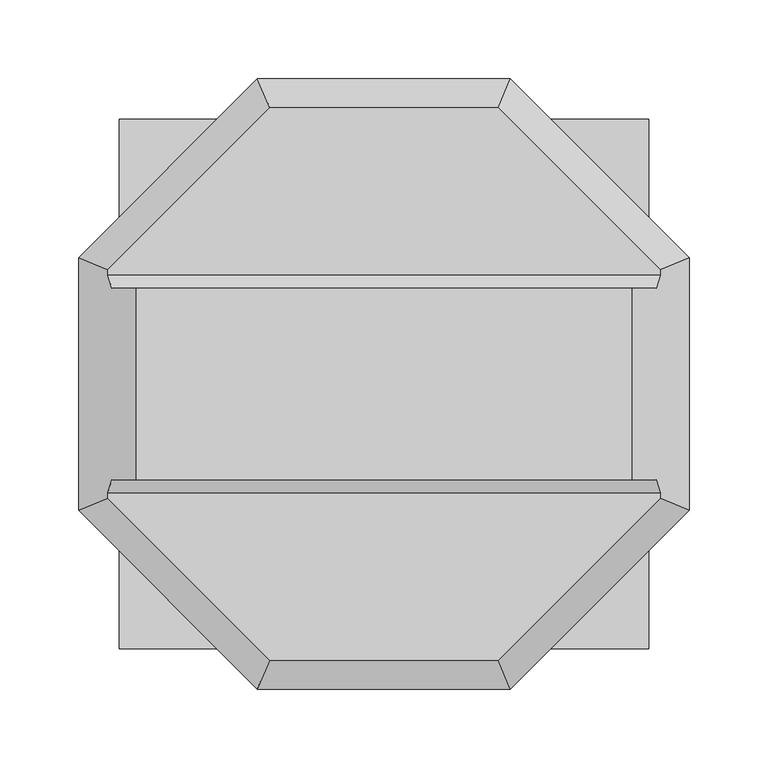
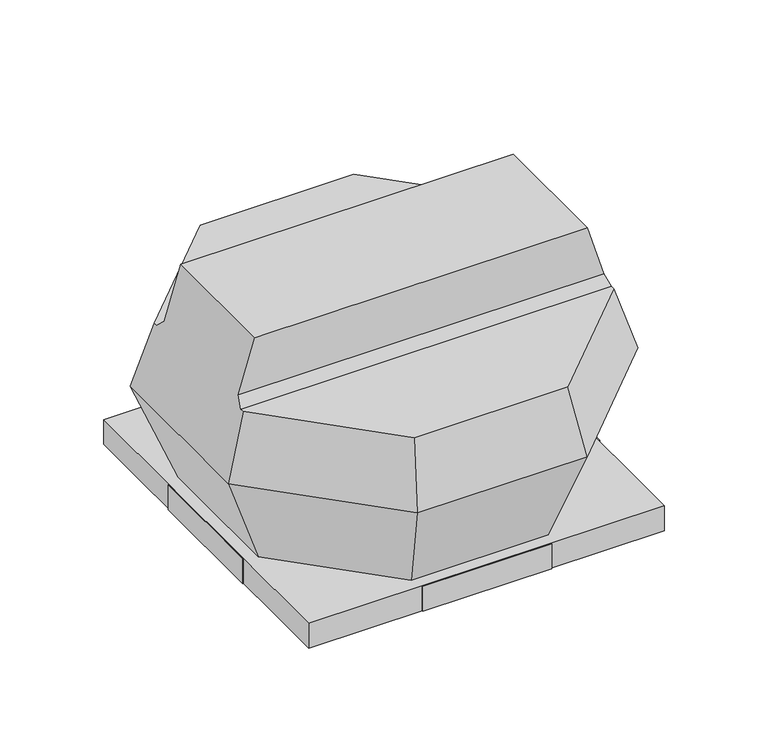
"""IFC4 building model written with IfcOpenShell, lengths in millimetres: unitary equipment geometry, VE-Wentylator-ParaForma-Harmann-VIVER_PT-Wywiewny : 2-250/1200PT."""

from ifc_helpers import new_model, si_unit, origin, place, context, project, spatial, faceted_brep, source, transform, mapped, element, save


def unitary_equipment_c4368d7e(model_context):
    return source(origin(), model_context, "Body", "Brep", [
        faceted_brep([(157.6194424, -60.8, 218.0), (157.6194424, 60.8, 218.0), (-157.6194424, 60.8, 218.0), (-157.6194424, -60.8, 218.0), (173.241842, 60.8, 166.4), (-173.241842, 60.8, 166.4), (-173.241842, -60.8, 166.4), (173.241842, -60.8, 166.4), (175.7547473, 69.15, 158.1), (-175.7547473, 69.15, 158.1), (175.7547473, -69.15, 158.1), (-175.7547473, -69.15, 158.1), (72.8, -175.7547473, 158.1), (175.7547473, -72.8, 158.1), (-175.7547473, -72.8, 158.1), (-72.8, -175.7547473, 158.1), (175.7547473, 72.8, 158.1), (72.8, 175.7547473, 158.1), (-72.8, 175.7547473, 158.1), (-175.7547473, 72.8, 158.1), (80.5, -194.3441918, 96.7), (194.3441918, -80.5, 96.7), (194.3441918, 80.5, 96.7), (80.5, 194.3441918, 96.7), (-80.5, 194.3441918, 96.7), (-194.3441918, 80.5, 96.7), (-194.3441918, -80.5, 96.7), (-80.5, -194.3441918, 96.7), (65.05, -157.0445922, 1.0), (-65.05, -157.0445922, 1.0), (-157.0445922, -65.05, 1.0), (-157.0445922, 65.05, 1.0), (-65.05, 157.0445922, 1.0), (65.05, 157.0445922, 1.0), (157.0445922, 65.05, 1.0), (157.0445922, -65.05, 1.0)], [[[0, 1, 2, 3]], [[2, 1, 4, 5]], [[0, 3, 6, 7]], [[4, 8, 9, 5]], [[10, 7, 6, 11]], [[12, 13, 10, 11, 14, 15]], [[16, 17, 18, 19, 9, 8]], [[13, 12, 20, 21]], [[13, 21, 22, 16, 8, 4, 1, 0, 7, 10]], [[17, 16, 22, 23]], [[18, 17, 23, 24]], [[19, 18, 24, 25]], [[19, 25, 26, 14, 11, 6, 3, 2, 5, 9]], [[15, 14, 26, 27]], [[12, 15, 27, 20]], [[28, 29, 30, 31, 32, 33, 34, 35]], [[28, 35, 21, 20]], [[35, 34, 22, 21]], [[34, 33, 23, 22]], [[33, 32, 24, 23]], [[32, 31, 25, 24]], [[31, 30, 26, 25]], [[30, 29, 27, 26]], [[29, 28, 20, 27]]]),
        faceted_brep([(167.5, 167.5, -24.0), (167.5, 167.5, 0.0), (-167.5, 167.5, 0.0), (-167.5, 167.5, -24.0), (168.5, 168.5, 1.0), (168.5, 168.5, -24.0), (-168.5, 168.5, -24.0), (-168.5, 168.5, 1.0), (-167.5, -167.5, 0.0), (-167.5, -167.5, -24.0), (-168.5, -168.5, -24.0), (-168.5, -168.5, 1.0), (167.5, -167.5, 0.0), (167.5, -167.5, -24.0), (168.5, -168.5, -24.0), (168.5, -168.5, 1.0)], [[[0, 1, 2, 3]], [[4, 5, 6, 7]], [[3, 2, 8, 9]], [[7, 6, 10, 11]], [[9, 8, 12, 13]], [[11, 10, 14, 15]], [[13, 12, 1, 0]], [[5, 14, 10, 6], [3, 9, 13, 0]], [[15, 14, 5, 4]], [[7, 11, 15, 4]], [[1, 12, 8, 2]]]),
        faceted_brep([(-168.5, -61.3, -24.0), (-169.5, -61.3, -24.0), (-169.5, 61.3, -24.0), (-168.5, 61.3, -24.0), (-168.5, -61.3, 1.0), (-168.5, 61.3, 1.0), (-169.5, 61.3, 1.0), (-169.5, -61.3, 1.0)], [[[0, 1, 2, 3]], [[4, 5, 6, 7]], [[1, 0, 4, 7]], [[2, 1, 7, 6]], [[3, 2, 6, 5]], [[0, 3, 5, 4]]]),
        faceted_brep([(169.5, -61.3, -24.0), (168.5, -61.3, -24.0), (168.5, 61.3, -24.0), (169.5, 61.3, -24.0), (169.5, 61.3, 1.0), (168.5, 61.3, 1.0), (168.5, 5.0, 1.0), (168.5, -5.0, 1.0), (168.5, -61.3, 1.0), (169.5, -61.3, 1.0), (169.5, -5.0, 1.0), (169.5, 5.0, 1.0)], [[[0, 1, 2, 3]], [[4, 5, 6, 7, 8, 9, 10, 11]], [[1, 0, 9, 8]], [[2, 1, 8, 7, 6, 5]], [[3, 2, 5, 4]], [[0, 3, 4, 11, 10, 9]]]),
        faceted_brep([(61.3, 168.5, -24.0), (-61.3, 168.5, -24.0), (-61.3, 169.5, -24.0), (61.3, 169.5, -24.0), (61.3, 168.5, 1.0), (61.3, 169.5, 1.0), (-61.3, 169.5, 1.0), (-61.3, 168.5, 1.0)], [[[0, 1, 2, 3]], [[4, 5, 6, 7]], [[1, 0, 4, 7]], [[2, 1, 7, 6]], [[3, 2, 6, 5]], [[0, 3, 5, 4]]]),
        faceted_brep([(61.3, -169.5, -24.0), (-61.3, -169.5, -24.0), (-61.3, -168.5, -24.0), (61.3, -168.5, -24.0), (61.3, -169.5, 1.0), (61.3, -168.5, 1.0), (-61.3, -168.5, 1.0), (-61.3, -169.5, 1.0)], [[[0, 1, 2, 3]], [[4, 5, 6, 7]], [[1, 0, 4, 7]], [[2, 1, 7, 6]], [[3, 2, 6, 5]], [[0, 3, 5, 4]]]),
    ])


if __name__ == "__main__":
    model = new_model("IFC4")
    model_context = context("Model", 3, world=origin())
    ifc_project = project(units=[si_unit("LENGTHUNIT", "METRE", prefix="MILLI")], contexts=[model_context])
    site = spatial("IfcSite", under=ifc_project)
    building = spatial("IfcBuilding", under=site)
    placement = place(None, origin())
    unitary_equipment_shape = unitary_equipment_c4368d7e(model_context)
    element("IfcUnitaryEquipment", 1, ObjectType="VE-Wentylator-ParaForma-Harmann-VIVER_PT-Wywiewny : 2-250/1200PT", at=placement, inside=building, context=model_context, shape_type="MappedRepresentation", body=[
        mapped(unitary_equipment_shape, transform((0.0, 0.0, 0.0), x_axis=(1.0, 0.0, 0.0), y_axis=(0.0, 1.0, 0.0), z_axis=(0.0, 0.0, 1.0))),
    ])
    save(model, "model.ifc")
